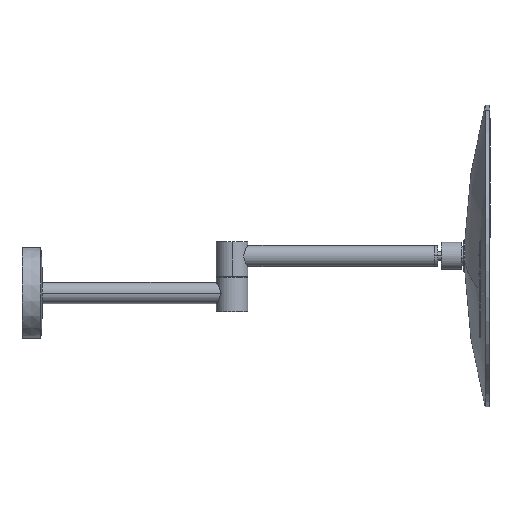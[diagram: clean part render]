
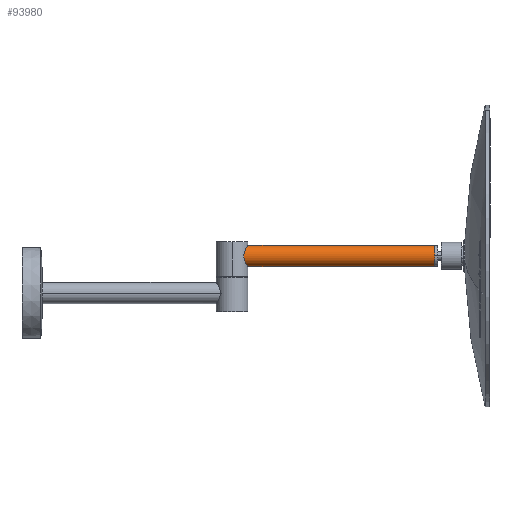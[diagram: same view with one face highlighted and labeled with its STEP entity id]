
A CAD part, top view. The second image highlights one B-rep face of the part: STEP entity #93980.
In plain terms, the highlighted cylindrical face has radius 7 mm (diameter 14 mm), a partial arc.
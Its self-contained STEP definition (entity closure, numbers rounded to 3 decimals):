
#2081 = DIRECTION ( 'NONE',  ( 0., -1., 0. ) ) ;
#8334 = CYLINDRICAL_SURFACE ( 'NONE', #30202, 7. ) ;
#10033 = DIRECTION ( 'NONE',  ( -1., 0., 0. ) ) ;
#12166 = CARTESIAN_POINT ( 'NONE',  ( 273., 24.5, 0. ) ) ;
#14406 = CIRCLE ( 'NONE', #112213, 7. ) ;
#19771 = VERTEX_POINT ( 'NONE', #102477 ) ;
#28312 = DIRECTION ( 'NONE',  ( 0., 1., 0. ) ) ;
#30202 = AXIS2_PLACEMENT_3D ( 'NONE', #31688, #78276, #2081 ) ;
#31688 = CARTESIAN_POINT ( 'NONE',  ( 143., 24.5, 0. ) ) ;
#35302 = CARTESIAN_POINT ( 'NONE',  ( 143., 31.5, 0. ) ) ;
#36452 = CIRCLE ( 'NONE', #78966, 7. ) ;
#36481 = ORIENTED_EDGE ( 'NONE', *, *, #55512, .T. ) ;
#43714 = CARTESIAN_POINT ( 'NONE',  ( 273., 31.5, 0. ) ) ;
#44747 = ORIENTED_EDGE ( 'NONE', *, *, #56921, .F. ) ;
#47522 = CARTESIAN_POINT ( 'NONE',  ( 145.5, 31.5, 0. ) ) ;
#50527 = CARTESIAN_POINT ( 'NONE',  ( 143., 17.5, 0. ) ) ;
#50989 = ORIENTED_EDGE ( 'NONE', *, *, #94270, .F. ) ;
#51956 = DIRECTION ( 'NONE',  ( 0., 1., 0. ) ) ;
#55512 = EDGE_CURVE ( 'NONE', #19771, #106746, #36452, .T. ) ;
#56921 = EDGE_CURVE ( 'NONE', #124838, #106746, #89198, .T. ) ;
#59829 = FACE_OUTER_BOUND ( 'NONE', #119952, .T. ) ;
#59961 = VECTOR ( 'NONE', #60629, 1000. ) ;
#60629 = DIRECTION ( 'NONE',  ( 1., 0., 0. ) ) ;
#61942 = VECTOR ( 'NONE', #92460, 1000. ) ;
#76931 = CARTESIAN_POINT ( 'NONE',  ( 145.5, 24.5, 0. ) ) ;
#78276 = DIRECTION ( 'NONE',  ( 1., 0., 0. ) ) ;
#78966 = AXIS2_PLACEMENT_3D ( 'NONE', #12166, #81131, #51956 ) ;
#81131 = DIRECTION ( 'NONE',  ( -1., 0., 0. ) ) ;
#84528 = ORIENTED_EDGE ( 'NONE', *, *, #117264, .T. ) ;
#89198 = LINE ( 'NONE', #35302, #61942 ) ;
#92460 = DIRECTION ( 'NONE',  ( 1., 0., 0. ) ) ;
#93980 = ADVANCED_FACE ( 'NONE', ( #59829 ), #8334, .T. ) ;
#94270 = EDGE_CURVE ( 'NONE', #94949, #124838, #14406, .T. ) ;
#94949 = VERTEX_POINT ( 'NONE', #107706 ) ;
#102477 = CARTESIAN_POINT ( 'NONE',  ( 273., 17.5, 0. ) ) ;
#106746 = VERTEX_POINT ( 'NONE', #43714 ) ;
#107706 = CARTESIAN_POINT ( 'NONE',  ( 145.5, 17.5, 0. ) ) ;
#112213 = AXIS2_PLACEMENT_3D ( 'NONE', #76931, #10033, #28312 ) ;
#114558 = LINE ( 'NONE', #50527, #59961 ) ;
#117264 = EDGE_CURVE ( 'NONE', #94949, #19771, #114558, .T. ) ;
#119952 = EDGE_LOOP ( 'NONE', ( #44747, #50989, #84528, #36481 ) ) ;
#124838 = VERTEX_POINT ( 'NONE', #47522 ) ;
